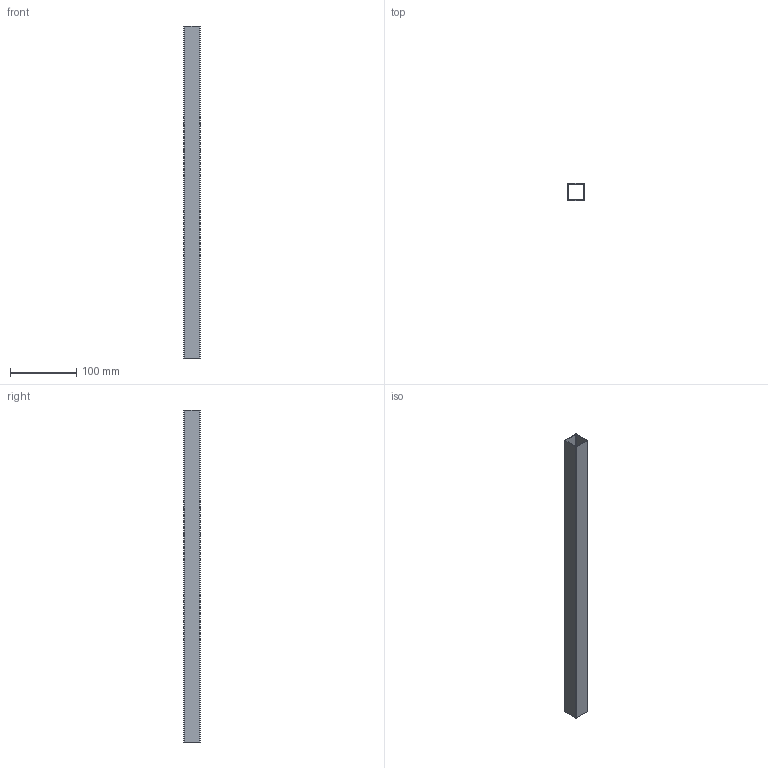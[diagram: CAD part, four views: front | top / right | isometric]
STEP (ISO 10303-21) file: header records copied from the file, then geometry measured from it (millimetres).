
FILE_DESCRIPTION (( 'STEP AP214' ), '1' );
FILE_NAME ('A21611.step', '2024-12-03T16:10:55', ( '' ), ( '' ), 'SwSTEP 2.0', 'SolidWorks 2023', '' );
FILE_SCHEMA (( 'AUTOMOTIVE_DESIGN' ));
Length unit declared in the file: millimetre
Products named in the file (1): A21611
Bounding box: 25 x 25 x 500 mm (x, y, z)
Volume: 56583.5 mm3; surface area: 93280.3 mm2
Topology: 1 solids, 1 shells, 18 faces, 48 edges, 32 vertices
Faces by surface type: plane 10, cylinder 8
Entity records: 595 total; most frequent: DIRECTION 102, CARTESIAN_POINT 99, ORIENTED_EDGE 96, EDGE_CURVE 48, AXIS2_PLACEMENT_3D 35, VERTEX_POINT 32, VECTOR 32, LINE 32
